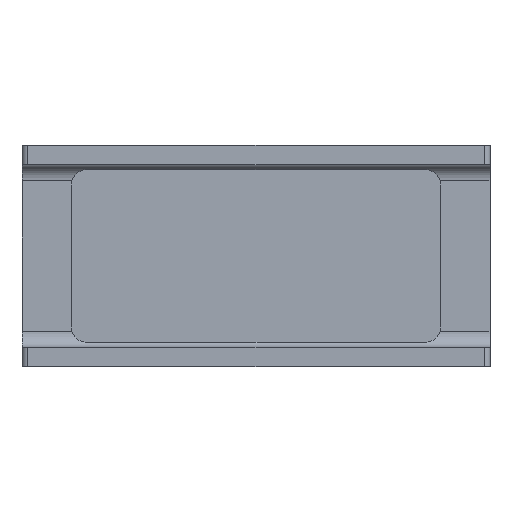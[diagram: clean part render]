
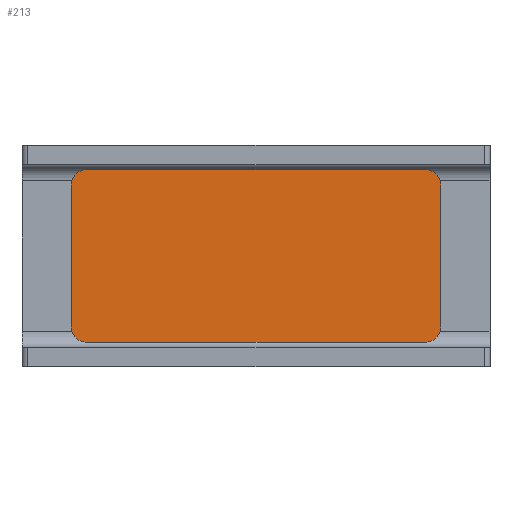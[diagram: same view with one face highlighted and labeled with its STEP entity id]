
A CAD part, top view. The second image highlights one B-rep face of the part: STEP entity #213.
In plain terms, the highlighted planar face has unit normal (0, 0, 1).
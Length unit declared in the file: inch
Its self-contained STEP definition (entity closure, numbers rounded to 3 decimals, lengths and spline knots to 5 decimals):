
#17 = DIRECTION ( 'NONE',  ( 0., 0., 1. ) ) ;
#30 = VERTEX_POINT ( 'NONE', #1403 ) ;
#112 = CARTESIAN_POINT ( 'NONE',  ( -0.8595, -0.3595, 0.375 ) ) ;
#126 = DIRECTION ( 'NONE',  ( 0., -1., 0. ) ) ;
#129 = LINE ( 'NONE', #671, #383 ) ;
#140 = EDGE_CURVE ( 'NONE', #30, #1237, #979, .T. ) ;
#164 = CARTESIAN_POINT ( 'NONE',  ( -0.9375, -0.4375, 0.375 ) ) ;
#204 = ORIENTED_EDGE ( 'NONE', *, *, #140, .T. ) ;
#205 = EDGE_CURVE ( 'NONE', #1150, #489, #867, .T. ) ;
#213 = ADVANCED_FACE ( 'NONE', ( #726 ), #998, .T. ) ;
#215 = DIRECTION ( 'NONE',  ( -1., 0., 0. ) ) ;
#226 = CARTESIAN_POINT ( 'NONE',  ( -0.9375, 0.4375, 0.375 ) ) ;
#248 = CARTESIAN_POINT ( 'NONE',  ( 0.9375, 0.4375, 0.375 ) ) ;
#278 = VECTOR ( 'NONE', #474, 39.37008 ) ;
#289 = EDGE_CURVE ( 'NONE', #30, #1152, #129, .T. ) ;
#327 = DIRECTION ( 'NONE',  ( 0., 0., 1. ) ) ;
#383 = VECTOR ( 'NONE', #898, 39.37008 ) ;
#385 = ORIENTED_EDGE ( 'NONE', *, *, #1184, .T. ) ;
#391 = EDGE_CURVE ( 'NONE', #489, #680, #1204, .T. ) ;
#416 = DIRECTION ( 'NONE',  ( -1., 0., 0. ) ) ;
#440 = DIRECTION ( 'NONE',  ( 0., 0., 1. ) ) ;
#441 = DIRECTION ( 'NONE',  ( 0., 0., 1. ) ) ;
#446 = LINE ( 'NONE', #1342, #657 ) ;
#447 = CARTESIAN_POINT ( 'NONE',  ( 0.8595, -0.3595, 0.375 ) ) ;
#474 = DIRECTION ( 'NONE',  ( 1., 0., 0. ) ) ;
#489 = VERTEX_POINT ( 'NONE', #1404 ) ;
#537 = AXIS2_PLACEMENT_3D ( 'NONE', #1116, #440, #888 ) ;
#542 = ORIENTED_EDGE ( 'NONE', *, *, #667, .T. ) ;
#560 = EDGE_LOOP ( 'NONE', ( #1413, #204, #782, #1315, #893, #542, #1208, #385 ) ) ;
#657 = VECTOR ( 'NONE', #126, 39.37008 ) ;
#658 = DIRECTION ( 'NONE',  ( -1., 0., 0. ) ) ;
#667 = EDGE_CURVE ( 'NONE', #680, #767, #1113, .T. ) ;
#669 = AXIS2_PLACEMENT_3D ( 'NONE', #112, #327, #215 ) ;
#671 = CARTESIAN_POINT ( 'NONE',  ( -0.9375, 0.4375, 0.375 ) ) ;
#680 = VERTEX_POINT ( 'NONE', #896 ) ;
#703 = EDGE_CURVE ( 'NONE', #1237, #1150, #446, .T. ) ;
#726 = FACE_OUTER_BOUND ( 'NONE', #560, .T. ) ;
#731 = EDGE_CURVE ( 'NONE', #1123, #767, #1266, .T. ) ;
#767 = VERTEX_POINT ( 'NONE', #1025 ) ;
#768 = CARTESIAN_POINT ( 'NONE',  ( -0.9375, -0.3595, 0.375 ) ) ;
#772 = AXIS2_PLACEMENT_3D ( 'NONE', #447, #17, #658 ) ;
#782 = ORIENTED_EDGE ( 'NONE', *, *, #703, .T. ) ;
#789 = DIRECTION ( 'NONE',  ( 0., -1., 0. ) ) ;
#843 = VECTOR ( 'NONE', #789, 39.37008 ) ;
#867 = CIRCLE ( 'NONE', #669, 0.078 ) ;
#888 = DIRECTION ( 'NONE',  ( -1., 0., 0. ) ) ;
#893 = ORIENTED_EDGE ( 'NONE', *, *, #391, .T. ) ;
#896 = CARTESIAN_POINT ( 'NONE',  ( 0.8595, -0.4375, 0.375 ) ) ;
#898 = DIRECTION ( 'NONE',  ( 1., 0., 0. ) ) ;
#903 = AXIS2_PLACEMENT_3D ( 'NONE', #1093, #973, #416 ) ;
#915 = CIRCLE ( 'NONE', #537, 0.078 ) ;
#973 = DIRECTION ( 'NONE',  ( 0., 0., 1. ) ) ;
#979 = CIRCLE ( 'NONE', #903, 0.078 ) ;
#998 = PLANE ( 'NONE',  #1146 ) ;
#1025 = CARTESIAN_POINT ( 'NONE',  ( 0.9375, -0.3595, 0.375 ) ) ;
#1093 = CARTESIAN_POINT ( 'NONE',  ( -0.8595, 0.3595, 0.375 ) ) ;
#1106 = DIRECTION ( 'NONE',  ( -1., 0., 0. ) ) ;
#1113 = CIRCLE ( 'NONE', #772, 0.078 ) ;
#1116 = CARTESIAN_POINT ( 'NONE',  ( 0.8595, 0.3595, 0.375 ) ) ;
#1123 = VERTEX_POINT ( 'NONE', #1194 ) ;
#1141 = CARTESIAN_POINT ( 'NONE',  ( -0.9375, 0.3595, 0.375 ) ) ;
#1146 = AXIS2_PLACEMENT_3D ( 'NONE', #226, #441, #1106 ) ;
#1150 = VERTEX_POINT ( 'NONE', #768 ) ;
#1152 = VERTEX_POINT ( 'NONE', #1424 ) ;
#1184 = EDGE_CURVE ( 'NONE', #1123, #1152, #915, .T. ) ;
#1194 = CARTESIAN_POINT ( 'NONE',  ( 0.9375, 0.3595, 0.375 ) ) ;
#1204 = LINE ( 'NONE', #164, #278 ) ;
#1208 = ORIENTED_EDGE ( 'NONE', *, *, #731, .F. ) ;
#1237 = VERTEX_POINT ( 'NONE', #1141 ) ;
#1266 = LINE ( 'NONE', #248, #843 ) ;
#1315 = ORIENTED_EDGE ( 'NONE', *, *, #205, .T. ) ;
#1342 = CARTESIAN_POINT ( 'NONE',  ( -0.9375, 0.4375, 0.375 ) ) ;
#1403 = CARTESIAN_POINT ( 'NONE',  ( -0.8595, 0.4375, 0.375 ) ) ;
#1404 = CARTESIAN_POINT ( 'NONE',  ( -0.8595, -0.4375, 0.375 ) ) ;
#1413 = ORIENTED_EDGE ( 'NONE', *, *, #289, .F. ) ;
#1424 = CARTESIAN_POINT ( 'NONE',  ( 0.8595, 0.4375, 0.375 ) ) ;
